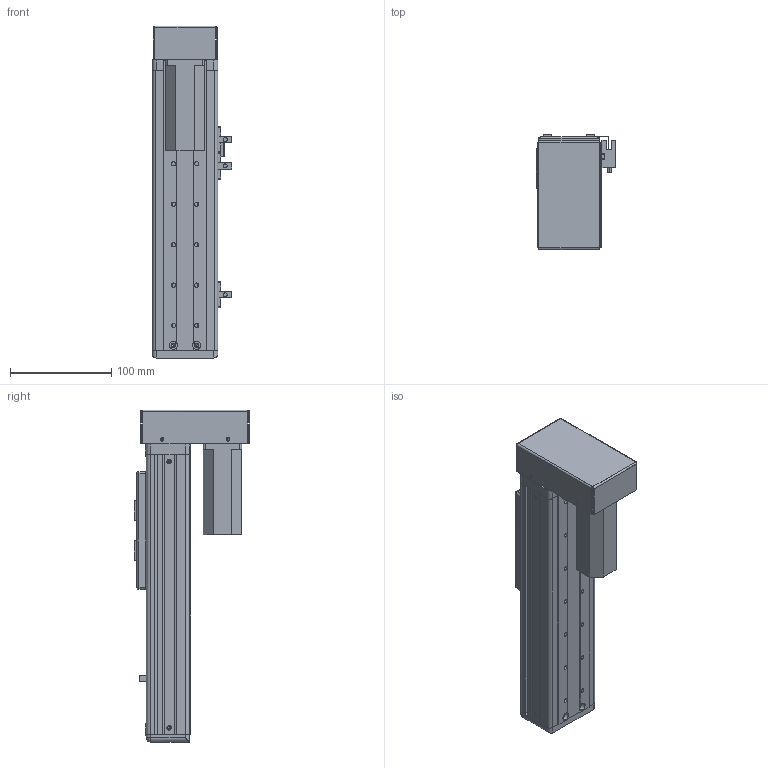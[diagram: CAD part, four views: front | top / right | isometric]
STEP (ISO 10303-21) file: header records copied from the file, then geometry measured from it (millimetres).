
FILE_DESCRIPTION (( 'STEP AP203' ), '1' );
FILE_NAME ('RY60F-L1210-300-BK.SLDASM_100.step', '2021-03-02T06:47:17', ( '盈信电脑' ), ( '东莞市道滘镇水果街19号' ), 'SwSTEP 2.0', 'SolidWorks 2012', '' );
FILE_SCHEMA (( 'CONFIG_CONTROL_DESIGN' ));
Length unit declared in the file: millimetre
Products named in the file (17): RY60F-L1210-300-BK.SLDASM_100; RY60F-狟殏萇儂欶(100W); RY60F-狟殏萇儂假蚾啣(100W PCD45 M3); 侂狟100W; RY60F-转折电机端丝杆安装座; 俋噤12酗38滅袉蝶; RY50F-300-MR15W蛌殏絳寢-BK_100; 俋噤12酗29滅袉蝶; RY60F-祥凄詩滅鳥裔; RY60F-300-蛌殏滅鳥詩え-BK_100; RY60F-L1210-300-BK蛌殏俋褲_100; 覜茼ん672; RY60F-浮动端丝杆支撑座; RY50-60詩湍揤啣; RY60F-滅鳥詩え盓殤; RY60F-嫖萇羲壽結え; RY60F-臏賑輸
Assembly tree (20 placements, depth 2):
  RY60F-L1210-300-BK.SLDASM_100
    RY60F-臏賑輸
    RY60F-浮动端丝杆支撑座
    RY60F-滅鳥詩え盓殤
    RY60F-嫖萇羲壽結え
    RY50-60詩湍揤啣  x2
    RY60F-祥凄詩滅鳥裔
    RY60F-L1210-300-BK蛌殏俋褲_100  x2
    覜茼ん672  x3
    RY60F-300-蛌殏滅鳥詩え-BK_100
    RY50F-300-MR15W蛌殏絳寢-BK_100
    俋噤12酗29滅袉蝶
    俋噤12酗38滅袉蝶
    侂狟100W
    RY60F-转折电机端丝杆安装座
    RY60F-狟殏萇儂假蚾啣(100W PCD45 M3)
    RY60F-狟殏萇儂欶(100W)
Bounding box: 78.7 x 114 x 328 mm (x, y, z)
Volume: 496841.3 mm3; surface area: 297887.1 mm2
Topology: 20 solids, 21 shells, 1029 faces, 2794 edges, 1767 vertices
Faces by surface type: plane 463, cylinder 454, cone 94, bspline 18
Entity records: 31230 total; most frequent: CARTESIAN_POINT 6074, DIRECTION 4929, ORIENTED_EDGE 4752, EDGE_CURVE 2376, AXIS2_PLACEMENT_3D 1742, VERTEX_POINT 1543, VECTOR 1445, LINE 1445
